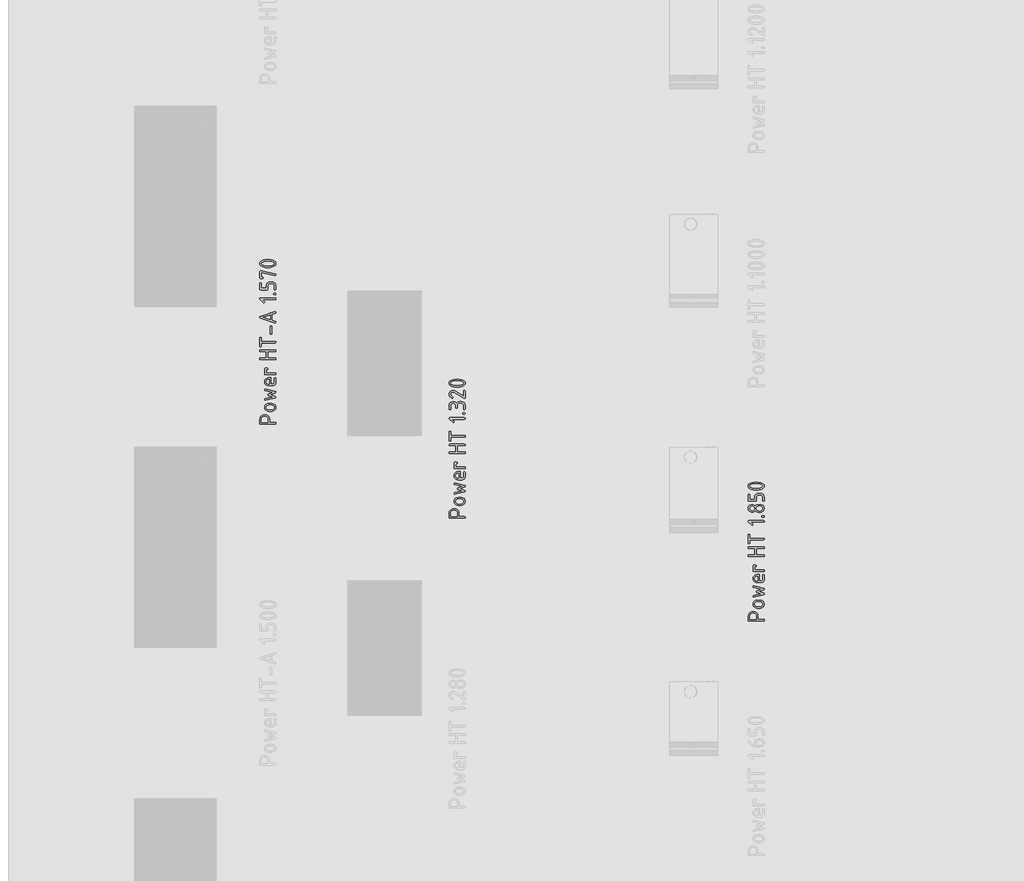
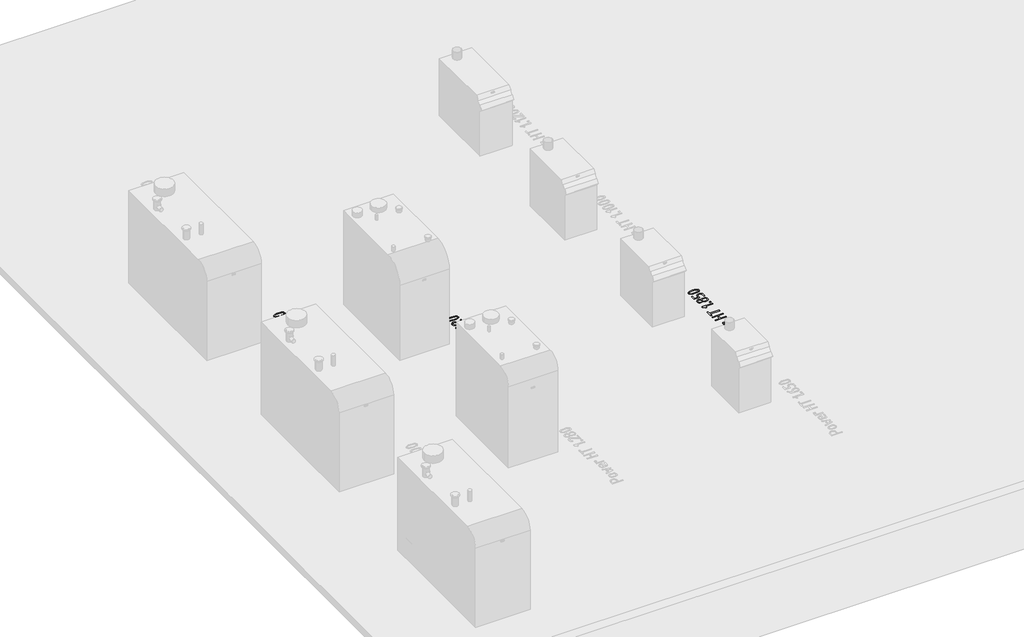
# One storey, part 32 of 37: 3 proxies.
"""IFC4 building model written with IfcOpenShell, lengths in millimetres."""

import ifcopenshell
import ifcopenshell.guid

model = None  # the IFC model being written
_history = None  # IfcOwnerHistory: only IFC2X3 demands one
_inside = {}  # id of a spatial element -> (the spatial element, [elements in it])
_under = {}  # id of a project, library or spatial element -> (it, [spatial elements below it])
_declared = {}  # id of a project -> (the project, [libraries it declares])
_typed = {}  # id of a type object -> (the type object, [elements of that type])
_made_of = {}  # id of a material, layer set ... -> (it, [elements and type objects made of it])


def new_model(schema):
    """Start an empty IFC model of exactly this schema.

    Asked for "IFC4X3", IfcOpenShell would pick the latest addendum, in which some entities
    have other attributes; the version numbers below select the first issue.
    IFC2X3 requires an IfcOwnerHistory on every rooted entity: one is made here for all.
    """
    global model, _history
    if schema == "IFC4X3":
        model = ifcopenshell.file(schema_version=(4, 3, 0, 0))
    else:
        model = ifcopenshell.file(schema=schema)
    _inside.clear()
    _under.clear()
    _declared.clear()
    _typed.clear()
    _made_of.clear()
    _history = None
    if model.schema == "IFC2X3":
        org = make("IfcOrganization", Name="unknown")
        user = make(
            "IfcPersonAndOrganization",
            ThePerson=make("IfcPerson", FamilyName="unknown"),
            TheOrganization=org,
        )
        app = make(
            "IfcApplication",
            ApplicationDeveloper=org,
            Version="unknown",
            ApplicationFullName="unknown",
            ApplicationIdentifier="unknown",
        )
        _history = make(
            "IfcOwnerHistory",
            OwningUser=user,
            OwningApplication=app,
            ChangeAction="ADDED",
            CreationDate=0,
        )
    return model


def make(cls, **values):
    """One entity of the class cls with the attributes given. An attribute that is None is left unset."""
    return model.create_entity(
        cls, **{name: value for name, value in values.items() if value is not None}
    )


def rooted(cls, **values):
    """An entity with a GlobalId (a new one), such as an element, a storey or a relation."""
    return make(cls, GlobalId=ifcopenshell.guid.new(), OwnerHistory=_history, **values)


def si_unit(unit_type, name, prefix=None):
    """IfcSIUnit, for example si_unit("LENGTHUNIT", "METRE", prefix="MILLI")."""
    return make("IfcSIUnit", UnitType=unit_type, Prefix=prefix, Name=name)


def assignment(units):
    """IfcUnitAssignment: the units of a project."""
    return None if units is None else make("IfcUnitAssignment", Units=units)


def point(xyz):
    """IfcCartesianPoint."""
    return None if xyz is None else make("IfcCartesianPoint", Coordinates=xyz)


def direction(xyz):
    """IfcDirection."""
    return None if xyz is None else make("IfcDirection", DirectionRatios=xyz)


def frame(location, z_axis=None, x_axis=None):
    """IfcAxis2Placement3D, a coordinate frame: its origin and axes. An axis left out is left unset."""
    return make(
        "IfcAxis2Placement3D",
        Location=point(location),
        Axis=direction(z_axis),
        RefDirection=direction(x_axis),
    )


def origin():
    """The frame at (0, 0, 0) with its axes left unset."""
    return frame((0.0, 0.0, 0.0))


def place(relative_to, where):
    """IfcLocalPlacement: puts the frame where relative to a parent placement (None: the world)."""
    return make(
        "IfcLocalPlacement", PlacementRelTo=relative_to, RelativePlacement=where
    )


def context(
    kind, dimensions, precision=None, world=None, true_north=None, identifier=None
):
    """IfcGeometricRepresentationContext, for example the 3D "Model" context."""
    return make(
        "IfcGeometricRepresentationContext",
        ContextIdentifier=identifier,
        ContextType=kind,
        CoordinateSpaceDimension=dimensions,
        Precision=precision,
        WorldCoordinateSystem=world,
        TrueNorth=true_north,
    )


def project(units=None, contexts=None):
    """IfcProject with its units and contexts."""
    return rooted(
        "IfcProject",
        Name="project",
        RepresentationContexts=contexts,
        UnitsInContext=assignment(units),
    )


def spatial(cls, under=None, at=None, **own):
    """A site, building, storey or space (cls), placed at a placement, below another one or the project."""
    s = rooted(cls, ObjectPlacement=at, **own)
    if under is not None:
        _under.setdefault(under.id(), (under, []))[1].append(s)
    return s


def polyline(points):
    """IfcPolyline through the points."""
    return make("IfcPolyline", Points=[point(p) for p in points])


def outline(outer, holes=None, kind="AREA"):
    """IfcArbitraryClosedProfileDef: a profile drawn as a closed curve; with holes, ...WithVoids."""
    if holes is None:
        return make("IfcArbitraryClosedProfileDef", ProfileType=kind, OuterCurve=outer)
    return make(
        "IfcArbitraryProfileDefWithVoids",
        ProfileType=kind,
        OuterCurve=outer,
        InnerCurves=holes,
    )


def extrude(swept, where, along, depth):
    """IfcExtrudedAreaSolid: the profile swept, set in the frame where, extruded along a direction by depth."""
    return make(
        "IfcExtrudedAreaSolid",
        SweptArea=swept,
        Position=where,
        ExtrudedDirection=direction(along),
        Depth=depth,
    )


def shape(context_of_items, identifier, shape_type, items):
    """IfcShapeRepresentation: the items that make up one representation, for example the "Body"."""
    return make(
        "IfcShapeRepresentation",
        ContextOfItems=context_of_items,
        RepresentationIdentifier=identifier,
        RepresentationType=shape_type,
        Items=items,
    )


def made_of(thing, what):
    """Note that an element or type object is made of a material, layer set ...; save() writes the relation."""
    if what is not None:
        _made_of.setdefault(what.id(), (what, []))[1].append(thing)
    return thing


def element(
    cls,
    number,
    at=None,
    inside=None,
    cuts=None,
    type_object=None,
    material=None,
    context=None,
    identifier="Body",
    shape_type=None,
    held_by="IfcProductDefinitionShape",
    body=None,
    shapes=None,
    **own,
):
    """One element of the class cls, such as IfcWall. Its Tag is "e" and its number.

    at: its placement. inside: the storey or other place that contains it. cuts: it is an
    opening in that element (IfcRelVoidsElement). A single representation is given by context,
    identifier, shape_type and body (its items); several are given by shapes. held_by: the class
    of the entity that holds the representations. save() writes the other relations.
    """
    e = rooted(cls, Tag="e%d" % number, ObjectPlacement=at, **own)
    if body is not None:
        shapes = [shape(context, identifier, shape_type, body)]
    if shapes is not None:
        e.Representation = make(held_by, Representations=shapes)
    if inside is not None:
        _inside.setdefault(inside.id(), (inside, []))[1].append(e)
    if cuts is not None:
        rooted(
            "IfcRelVoidsElement", RelatingBuildingElement=cuts, RelatedOpeningElement=e
        )
    if type_object is not None:
        _typed.setdefault(type_object.id(), (type_object, []))[1].append(e)
    return made_of(e, material)


def aggregate(whole, parts):
    """IfcRelAggregates: a whole, such as a stair, and the parts it consists of."""
    return rooted("IfcRelAggregates", RelatingObject=whole, RelatedObjects=parts)


def save(model, path):
    """Write the relations noted so far, then the file.

    IfcRelAggregates (storeys below a building ...), IfcRelContainedInSpatialStructure (elements
    in a storey), IfcRelDefinesByType, IfcRelAssociatesMaterial and IfcRelDeclares: one each for
    every whole, place, type object, material and project.
    """
    for whole, parts in _under.values():
        aggregate(whole, parts)
    for where, things in _inside.values():
        rooted(
            "IfcRelContainedInSpatialStructure",
            RelatedElements=things,
            RelatingStructure=where,
        )
    for kind, things in _typed.values():
        rooted("IfcRelDefinesByType", RelatedObjects=things, RelatingType=kind)
    for what, things in _made_of.values():
        rooted("IfcRelAssociatesMaterial", RelatedObjects=things, RelatingMaterial=what)
    for by, libraries in _declared.values():
        rooted("IfcRelDeclares", RelatingContext=by, RelatedDefinitions=libraries)
    model.write(path)


model = new_model("IFC4")

# Units and contexts
model_context = context("Model", 3, world=origin())
ifc_project = project(units=[si_unit("LENGTHUNIT", "METRE", prefix="MILLI")], contexts=[model_context])

# Site, building, storey
site = spatial("IfcSite", under=ifc_project)
building = spatial("IfcBuilding", under=site)
storey = spatial("IfcBuildingStorey", under=building, Name="01_Стартовый вид_Площадка", Elevation=0.0)

# Proxies
placement = place(None, origin())
element("IfcBuildingElementProxy", 1, Name="150 мм", ObjectType="150 мм", at=placement, inside=storey, context=model_context, shape_type="SweptSolid", body=[
    extrude(outline(polyline([(4705.0274469, 32.9020615), (4705.0274469, 70.1769062), (4708.3833815, 87.4310044), (4718.4511852, 101.8785025), (4733.3131812, 111.661651), (4751.0516925, 114.9227005), (4769.5892359, 111.8314453), (4784.2914255, 102.5576797), (4793.87981, 88.3399033), (4797.0759381, 70.4166158), (4797.0759381, 40.7725271), (4848.5336016, 40.7725271), (4854.0469227, 38.8548502), (4855.8846964, 33.1018195), (4853.9969832, 27.3487888), (4848.3338436, 25.4311119), (4712.5782997, 25.4311119), (4706.9151601, 27.2988493), (4705.0274469, 32.9020615)]), holes=[polyline([(4720.3688621, 40.7725271), (4781.7345229, 40.7725271), (4781.7345229, 70.1769062), (4779.5122151, 81.5681068), (4772.8452915, 91.0516183), (4762.952276, 97.4488686), (4751.0516925, 99.5812853), (4739.1511091, 97.4488686), (4729.2580936, 91.0516183), (4722.59117, 81.5681068), (4720.3688621, 70.1769062), (4720.3688621, 40.7725271)])]), frame((0.0, 0.0, -10.0), z_axis=(0.0, 0.0, 1.0), x_axis=(1.0, 0.0, 0.0)), (0.0, 0.0, 1.0), 10.0),
    extrude(outline(polyline([(4818.4500452, 145.6055309), (4788.4863437, 145.6055309), (4774.093779, 148.3172459), (4761.9984315, 156.4523909), (4753.7883773, 168.4328776), (4751.0516925, 182.6806177), (4753.7584136, 197.0781763), (4761.8785767, 209.0286992), (4773.9439605, 217.0739531), (4788.4863437, 219.7557044), (4818.4500452, 219.7557044), (4832.8426099, 217.0439894), (4844.9379574, 208.9088444), (4853.1480116, 196.9283577), (4855.8846964, 182.6806177), (4853.1480116, 168.4328776), (4844.9379574, 156.4523909), (4832.8426099, 148.3172459), (4818.4500452, 145.6055309)]), holes=[polyline([(4818.0105776, 204.4142892), (4788.0069245, 204.4142892), (4779.3773784, 202.8212191), (4772.1061868, 198.0420087), (4767.1621761, 191.0155206), (4765.5141725, 182.6806177), (4767.1621761, 174.3457147), (4772.1061868, 167.3192267), (4779.3773784, 162.5400163), (4788.0069245, 160.9469461), (4818.0105776, 160.9469461), (4826.7200269, 162.5250344), (4833.9912184, 167.2592993), (4838.9052655, 174.2708054), (4840.5432812, 182.6806177), (4838.8952776, 191.0155206), (4833.9512668, 198.0420087), (4826.6700874, 202.8212191), (4818.0105776, 204.4142892)])]), frame((0.0, 0.0, -10.0), z_axis=(0.0, 0.0, 1.0), x_axis=(1.0, 0.0, 0.0)), (0.0, 0.0, 1.0), 10.0),
    extrude(outline(polyline([(4855.8846964, 325.1080791), (4850.4512785, 317.8368875), (4809.7006444, 302.6153271), (4850.2115689, 287.3538151), (4855.8846964, 280.0826235), (4854.1268259, 275.2285039), (4848.8532144, 272.4918191), (4760.3604158, 250.31868), (4758.2030293, 250.0789704), (4752.8395267, 251.9566957), (4751.0516925, 257.5898716), (4752.4699744, 262.364088), (4756.72482, 264.8610631), (4823.0844311, 281.4809296), (4785.8095863, 295.4240387), (4780.9354909, 302.6153271), (4785.8095863, 309.6468091), (4823.2042859, 323.6298698), (4756.72482, 340.3296395), (4752.4699744, 342.886542), (4751.0516925, 347.600831), (4753.1491516, 352.8344909), (4758.2030293, 355.1117322), (4760.3604158, 354.8720226), (4849.292682, 332.6189803), (4854.2366928, 329.9422229), (4855.8846964, 325.1080791)])), frame((0.0, 0.0, -10.0), z_axis=(0.0, 0.0, 1.0), x_axis=(1.0, 0.0, 0.0)), (0.0, 0.0, 1.0), 10.0),
    extrude(outline(polyline([(4809.8604508, 401.2957842), (4825.201866, 401.2957842), (4836.0087744, 405.7304121), (4840.5432812, 416.277635), (4840.5432812, 453.7921894), (4842.4609581, 459.4253652), (4848.2139888, 461.3030905), (4853.9670195, 459.4253652), (4855.8846964, 453.7921894), (4855.8846964, 416.277635), (4853.717322, 404.6217551), (4847.2151987, 394.8236247), (4837.5568989, 388.1716829), (4825.9209948, 385.954369), (4788.4863437, 385.954369), (4774.093779, 388.7359993), (4761.9984315, 397.0808902), (4753.7883773, 409.3210623), (4751.0516925, 423.7885362), (4753.7084741, 438.365877), (4761.6788187, 450.4562306), (4773.5244687, 458.5913756), (4787.8071664, 461.3030905), (4809.8604508, 461.3030905), (4809.8604508, 401.2957842)]), holes=[polyline([(4764.5153824, 423.7885362), (4766.163386, 415.1589901), (4771.1073968, 407.8877986), (4778.3785884, 402.9437878), (4787.0081344, 401.2957842), (4794.5190356, 401.2957842), (4794.5190356, 446.2812882), (4787.0081344, 446.2812882), (4778.3785884, 444.6332846), (4771.1073968, 439.6892738), (4766.163386, 432.4180822), (4764.5153824, 423.7885362)])]), frame((0.0, 0.0, -10.0), z_axis=(0.0, 0.0, 1.0), x_axis=(1.0, 0.0, 0.0)), (0.0, 0.0, 1.0), 10.0),
    extrude(outline(polyline([(4758.5226421, 490.7873729), (4752.9194299, 492.7050498), (4751.0516925, 498.4580805), (4751.0516925, 543.6433424), (4752.9693694, 549.2465546), (4758.7224001, 551.114292), (4773.9040089, 551.114292), (4779.5371848, 549.2465546), (4781.4149101, 543.6433424), (4779.5371848, 538.0101665), (4773.9040089, 536.1324412), (4766.3931077, 536.1324412), (4766.3931077, 506.1287881), (4848.4137468, 506.1287881), (4854.016959, 504.2111112), (4855.8846964, 498.4580805), (4854.016959, 492.7050498), (4848.4137468, 490.7873729), (4758.5226421, 490.7873729)])), frame((0.0, 0.0, -10.0), z_axis=(0.0, 0.0, 1.0), x_axis=(1.0, 0.0, 0.0)), (0.0, 0.0, 1.0), 10.0),
    extrude(outline(polyline([(4848.3338436, 631.4170122), (4712.5782997, 631.4170122), (4706.9151601, 633.3346891), (4705.0274469, 639.0877198), (4706.9451238, 644.8407505), (4712.6981545, 646.7584274), (4766.3931077, 646.7584274), (4766.3931077, 705.5671856), (4712.6981545, 705.5671856), (4706.9451238, 707.4848625), (4705.0274469, 713.2378932), (4706.9151601, 718.9909239), (4712.5782997, 720.9086008), (4848.3338436, 720.9086008), (4853.9969832, 718.9909239), (4855.8846964, 713.2378932), (4854.0269469, 707.4848625), (4848.4536984, 705.5671856), (4781.7345229, 705.5671856), (4781.7345229, 646.7584274), (4848.4536984, 646.7584274), (4854.0269469, 644.8407505), (4855.8846964, 639.0877198), (4853.9969832, 633.3346891), (4848.3338436, 631.4170122)])), frame((0.0, 0.0, -10.0), z_axis=(0.0, 0.0, 1.0), x_axis=(1.0, 0.0, 0.0)), (0.0, 0.0, 1.0), 10.0),
    extrude(outline(polyline([(4712.6981545, 749.8735123), (4706.9451238, 751.7512376), (4705.0274469, 757.3844135), (4705.0274469, 832.7331351), (4706.9451238, 838.3363472), (4712.6981545, 840.2040846), (4718.4511852, 838.3363472), (4720.3688621, 832.7331351), (4720.3688621, 802.7294819), (4848.3737952, 802.7294819), (4854.0069711, 800.811805), (4855.8846964, 795.0587743), (4854.0069711, 789.3057436), (4848.3737952, 787.3880667), (4720.3688621, 787.3880667), (4720.3688621, 757.3844135), (4718.4511852, 751.7512376), (4712.6981545, 749.8735123)])), frame((0.0, 0.0, -10.0), z_axis=(0.0, 0.0, 1.0), x_axis=(1.0, 0.0, 0.0)), (0.0, 0.0, 1.0), 10.0),
    extrude(outline(polyline([(4730.7562787, 953.5867313), (4748.0553224, 936.3276392), (4750.2127089, 931.0939794), (4748.3349836, 925.4608035), (4742.7018077, 923.5830782), (4737.4681478, 925.7804163), (4707.9838655, 955.1048922), (4705.0274469, 961.2574389), (4706.9151601, 967.0104696), (4712.5782997, 968.9281465), (4848.3338436, 968.9281465), (4853.9969832, 967.0104696), (4855.8846964, 961.2574389), (4853.9969832, 955.5044082), (4848.3338436, 953.5867313), (4730.7562787, 953.5867313)])), frame((0.0, 0.0, -10.0), z_axis=(0.0, 0.0, 1.0), x_axis=(1.0, 0.0, 0.0)), (0.0, 0.0, 1.0), 10.0),
    extrude(outline(polyline([(4840.5432812, 999.6109769), (4834.7902505, 1001.5286538), (4832.8725736, 1007.2816845), (4834.7902505, 1013.0347152), (4840.5432812, 1014.9523921), (4848.2139888, 1014.9523921), (4853.9670195, 1013.0347152), (4855.8846964, 1007.2816845), (4853.9670195, 1001.5286538), (4848.2139888, 999.6109769), (4840.5432812, 999.6109769)])), frame((0.0, 0.0, -10.0), z_axis=(0.0, 0.0, 1.0), x_axis=(1.0, 0.0, 0.0)), (0.0, 0.0, 1.0), 10.0),
    extrude(outline(polyline([(4855.8846964, 1082.7103092), (4853.1280358, 1068.4625692), (4844.8580542, 1056.4820825), (4832.6728156, 1048.3469375), (4818.170384, 1045.6352225), (4803.0686784, 1045.6352225), (4786.1591629, 1049.4705763), (4772.9052189, 1060.9766377), (4759.6512749, 1049.4705763), (4742.7417593, 1045.6352225), (4728.2393278, 1048.3469375), (4716.0540891, 1056.4820825), (4707.7841075, 1068.4625692), (4705.0274469, 1082.7103092), (4707.7841075, 1096.9580493), (4716.0540891, 1108.938536), (4728.2393278, 1117.073681), (4742.7417593, 1119.785396), (4759.6512749, 1115.9500422), (4772.9052189, 1104.4439808), (4782.0840995, 1112.6939866), (4793.1606811, 1117.2284934), (4818.170384, 1119.785396), (4832.6728156, 1117.073681), (4844.8580542, 1108.938536), (4853.1280358, 1096.9580493), (4855.8846964, 1082.7103092)]), holes=[polyline([(4840.5432812, 1082.7103092), (4838.9052655, 1091.1201215), (4833.9912184, 1098.1316276), (4826.7200269, 1102.8658925), (4818.0105776, 1104.4439808), (4803.0287268, 1104.4439808), (4794.3991808, 1102.8509106), (4787.1279892, 1098.0717002), (4782.1839785, 1091.0452122), (4780.5359749, 1082.7103092), (4782.1689966, 1074.300497), (4787.0680618, 1067.2889908), (4794.3242715, 1062.554726), (4803.0287268, 1060.9766377), (4818.0105776, 1060.9766377), (4826.7200269, 1062.554726), (4833.9912184, 1067.2889908), (4838.9052655, 1074.300497), (4840.5432812, 1082.7103092)]), polyline([(4765.8737369, 1082.7103092), (4764.2407152, 1091.1201215), (4759.34165, 1098.1316276), (4752.0854402, 1102.8658925), (4743.3809849, 1104.4439808), (4734.7514389, 1102.8509106), (4727.4802473, 1098.0717002), (4722.5362366, 1091.0452122), (4720.888233, 1082.7103092), (4722.5212547, 1074.300497), (4727.4203199, 1067.2889908), (4734.6765296, 1062.554726), (4743.3809849, 1060.9766377), (4752.0854402, 1062.554726), (4759.34165, 1067.2889908), (4764.2407152, 1074.300497), (4765.8737369, 1082.7103092)])]), frame((0.0, 0.0, -10.0), z_axis=(0.0, 0.0, 1.0), x_axis=(1.0, 0.0, 0.0)), (0.0, 0.0, 1.0), 10.0),
    extrude(outline(polyline([(4774.0638153, 1150.4682264), (4712.6981545, 1150.4682264), (4706.9451238, 1152.3060001), (4705.0274469, 1157.8193211), (4705.0274469, 1209.2769846), (4706.9451238, 1214.9101605), (4712.6981545, 1216.7878858), (4718.4511852, 1214.9101605), (4720.3688621, 1209.2769846), (4720.3688621, 1165.8096416), (4766.3931077, 1165.8096416), (4766.3931077, 1187.8629259), (4769.1347864, 1201.9958051), (4777.3598225, 1213.8714189), (4789.4202124, 1221.9316546), (4803.6679525, 1224.6183998), (4818.6098516, 1224.6183998), (4832.932501, 1221.891703), (4844.977909, 1213.7116125), (4853.1579995, 1201.7161439), (4855.8846964, 1187.5433131), (4855.8846964, 1157.8992244), (4853.9670195, 1152.3259759), (4848.2139888, 1150.4682264), (4842.4609581, 1152.3060001), (4840.5432812, 1157.8193211), (4840.5432812, 1187.2237003), (4838.9402232, 1195.7483734), (4834.1310491, 1202.8647525), (4827.0146699, 1207.6739266), (4818.4899968, 1209.2769846), (4803.7878073, 1209.2769846), (4795.3130737, 1207.6639387), (4788.1867067, 1202.8248009), (4783.3475689, 1195.6984339), (4781.7345229, 1187.2237003), (4781.7345229, 1157.8193211), (4779.816846, 1152.3060001), (4774.0638153, 1150.4682264)])), frame((0.0, 0.0, -10.0), z_axis=(0.0, 0.0, 1.0), x_axis=(1.0, 0.0, 0.0)), (0.0, 0.0, 1.0), 10.0),
    extrude(outline(polyline([(4780.4560717, 1329.4514037), (4805.5956173, 1327.8233759), (4827.0795913, 1322.9392925), (4848.6834201, 1310.5243322), (4854.0843773, 1302.1669564), (4855.8846964, 1292.3763169), (4854.0918682, 1282.5856775), (4848.7133838, 1274.2283017), (4827.1994461, 1261.8133414), (4805.6855084, 1256.929258), (4780.4560717, 1255.3012302), (4755.226635, 1256.929258), (4733.7126972, 1261.8133414), (4712.1987595, 1274.2283017), (4706.8202751, 1282.5856775), (4705.0274469, 1292.3763169), (4706.827766, 1302.1669564), (4712.2287232, 1310.5243322), (4733.832552, 1322.9392925), (4755.3165261, 1327.8233759), (4780.4560717, 1329.4514037)]), holes=[polyline([(4780.4560717, 1314.1099885), (4745.2986618, 1310.2746347), (4726.6013121, 1302.8835883), (4720.3688621, 1292.3763169), (4726.6312758, 1281.9589367), (4745.4185166, 1274.597854), (4780.4560717, 1270.6426454), (4815.6134815, 1274.4779992), (4834.3108313, 1281.8690456), (4840.5432812, 1292.3763169), (4834.3108313, 1302.8835883), (4815.6134815, 1310.2746347), (4780.4560717, 1314.1099885)])]), frame((0.0, 0.0, -10.0), z_axis=(0.0, 0.0, 1.0), x_axis=(1.0, 0.0, 0.0)), (0.0, 0.0, 1.0), 10.0),
])
element("IfcBuildingElementProxy", 2, Name="150 мм", ObjectType="150 мм", at=placement, inside=storey, context=model_context, shape_type="SweptSolid", body=[
    extrude(outline(polyline([(1900.1180392, 998.5120944), (1900.1180392, 1035.7869392), (1903.4739738, 1053.0410373), (1913.5417775, 1067.4885354), (1928.4037735, 1077.271684), (1946.1422848, 1080.5327335), (1964.6798282, 1077.4414783), (1979.3820177, 1068.1677126), (1988.9704022, 1053.9499363), (1992.1665304, 1036.0266488), (1992.1665304, 1006.38256), (2043.6241939, 1006.38256), (2049.137515, 1004.4648831), (2050.9752887, 998.7118524), (2049.0875755, 992.9588217), (2043.4244359, 991.0411448), (1907.668892, 991.0411448), (1902.0057524, 992.9088822), (1900.1180392, 998.5120944)]), holes=[polyline([(1915.4594544, 1006.38256), (1976.8251152, 1006.38256), (1976.8251152, 1035.7869392), (1974.6028073, 1047.1781397), (1967.9358837, 1056.6616513), (1958.0428683, 1063.0589015), (1946.1422848, 1065.1913183), (1934.2417013, 1063.0589015), (1924.3486859, 1056.6616513), (1917.6817623, 1047.1781397), (1915.4594544, 1035.7869392), (1915.4594544, 1006.38256)])]), frame((0.0, 0.0, -10.0), z_axis=(0.0, 0.0, 1.0), x_axis=(1.0, 0.0, 0.0)), (0.0, 0.0, 1.0), 10.0),
    extrude(outline(polyline([(2013.5406375, 1111.2155639), (1983.5769359, 1111.2155639), (1969.1843713, 1113.9272789), (1957.0890238, 1122.0624239), (1948.8789695, 1134.0429105), (1946.1422848, 1148.2906506), (1948.8490058, 1162.6882092), (1956.969169, 1174.6387322), (1969.0345528, 1182.6839861), (1983.5769359, 1185.3657373), (2013.5406375, 1185.3657373), (2027.9332022, 1182.6540223), (2040.0285497, 1174.5188774), (2048.2386039, 1162.5383907), (2050.9752887, 1148.2906506), (2048.2386039, 1134.0429105), (2040.0285497, 1122.0624239), (2027.9332022, 1113.9272789), (2013.5406375, 1111.2155639)]), holes=[polyline([(2013.1011699, 1170.0243221), (1983.0975167, 1170.0243221), (1974.4679707, 1168.431252), (1967.1967791, 1163.6520416), (1962.2527683, 1156.6255536), (1960.6047648, 1148.2906506), (1962.2527683, 1139.9557476), (1967.1967791, 1132.9292596), (1974.4679707, 1128.1500492), (1983.0975167, 1126.5569791), (2013.1011699, 1126.5569791), (2021.8106191, 1128.1350674), (2029.0818107, 1132.8693322), (2033.9958578, 1139.8808384), (2035.6338735, 1148.2906506), (2033.9858699, 1156.6255536), (2029.0418591, 1163.6520416), (2021.7606796, 1168.431252), (2013.1011699, 1170.0243221)])]), frame((0.0, 0.0, -10.0), z_axis=(0.0, 0.0, 1.0), x_axis=(1.0, 0.0, 0.0)), (0.0, 0.0, 1.0), 10.0),
    extrude(outline(polyline([(2050.9752887, 1290.718112), (2045.5418708, 1283.4469204), (2004.7912367, 1268.22536), (2045.3021612, 1252.9638481), (2050.9752887, 1245.6926565), (2049.2174182, 1240.8385368), (2043.9438067, 1238.1018521), (1955.4510081, 1215.9287129), (1953.2936216, 1215.6890033), (1947.930119, 1217.5667286), (1946.1422848, 1223.1999045), (1947.5605667, 1227.974121), (1951.8154123, 1230.4710961), (2018.1750233, 1247.0909625), (1980.9001786, 1261.0340717), (1976.0260832, 1268.22536), (1980.9001786, 1275.256842), (2018.2948782, 1289.2399027), (1951.8154123, 1305.9396724), (1947.5605667, 1308.4965749), (1946.1422848, 1313.210864), (1948.2397439, 1318.4445239), (1953.2936216, 1320.7217652), (1955.4510081, 1320.4820556), (2044.3832743, 1298.2290132), (2049.3272851, 1295.5522559), (2050.9752887, 1290.718112)])), frame((0.0, 0.0, -10.0), z_axis=(0.0, 0.0, 1.0), x_axis=(1.0, 0.0, 0.0)), (0.0, 0.0, 1.0), 10.0),
    extrude(outline(polyline([(2004.9510431, 1366.9058172), (2020.2924583, 1366.9058172), (2031.0993666, 1371.340445), (2035.6338735, 1381.887668), (2035.6338735, 1419.4022223), (2037.5515504, 1425.0353982), (2043.3045811, 1426.9131235), (2049.0576118, 1425.0353982), (2050.9752887, 1419.4022223), (2050.9752887, 1381.887668), (2048.8079142, 1370.2317881), (2042.305791, 1360.4336576), (2032.6474912, 1353.7817159), (2021.0115871, 1351.564402), (1983.5769359, 1351.564402), (1969.1843713, 1354.3460323), (1957.0890238, 1362.6909232), (1948.8789695, 1374.9310952), (1946.1422848, 1389.3985691), (1948.7990663, 1403.97591), (1956.769411, 1416.0662635), (1968.615061, 1424.2014085), (1982.8977587, 1426.9131235), (2004.9510431, 1426.9131235), (2004.9510431, 1366.9058172)]), holes=[polyline([(1959.6059747, 1389.3985691), (1961.2539783, 1380.7690231), (1966.197989, 1373.4978315), (1973.4691806, 1368.5538208), (1982.0987267, 1366.9058172), (1989.6096279, 1366.9058172), (1989.6096279, 1411.8913211), (1982.0987267, 1411.8913211), (1973.4691806, 1410.2433175), (1966.197989, 1405.2993068), (1961.2539783, 1398.0281152), (1959.6059747, 1389.3985691)])]), frame((0.0, 0.0, -10.0), z_axis=(0.0, 0.0, 1.0), x_axis=(1.0, 0.0, 0.0)), (0.0, 0.0, 1.0), 10.0),
    extrude(outline(polyline([(1953.6132344, 1456.3974058), (1948.0100222, 1458.3150827), (1946.1422848, 1464.0681134), (1946.1422848, 1509.2533754), (1948.0599617, 1514.8565876), (1953.8129924, 1516.724325), (1968.9946012, 1516.724325), (1974.6277771, 1514.8565876), (1976.5055024, 1509.2533754), (1974.6277771, 1503.6201995), (1968.9946012, 1501.7424742), (1961.4837, 1501.7424742), (1961.4837, 1471.738821), (2043.5043391, 1471.738821), (2049.1075513, 1469.8211441), (2050.9752887, 1464.0681134), (2049.1075513, 1458.3150827), (2043.5043391, 1456.3974058), (1953.6132344, 1456.3974058)])), frame((0.0, 0.0, -10.0), z_axis=(0.0, 0.0, 1.0), x_axis=(1.0, 0.0, 0.0)), (0.0, 0.0, 1.0), 10.0),
    extrude(outline(polyline([(2043.4244359, 1597.0270451), (1907.668892, 1597.0270451), (1902.0057524, 1598.944722), (1900.1180392, 1604.6977527), (1902.0357161, 1610.4507834), (1907.7887468, 1612.3684603), (1961.4837, 1612.3684603), (1961.4837, 1671.1772186), (1907.7887468, 1671.1772186), (1902.0357161, 1673.0948955), (1900.1180392, 1678.8479262), (1902.0057524, 1684.6009569), (1907.668892, 1686.5186338), (2043.4244359, 1686.5186338), (2049.0875755, 1684.6009569), (2050.9752887, 1678.8479262), (2049.1175392, 1673.0948955), (2043.5442907, 1671.1772186), (1976.8251152, 1671.1772186), (1976.8251152, 1612.3684603), (2043.5442907, 1612.3684603), (2049.1175392, 1610.4507834), (2050.9752887, 1604.6977527), (2049.0875755, 1598.944722), (2043.4244359, 1597.0270451)])), frame((0.0, 0.0, -10.0), z_axis=(0.0, 0.0, 1.0), x_axis=(1.0, 0.0, 0.0)), (0.0, 0.0, 1.0), 10.0),
    extrude(outline(polyline([(1907.7887468, 1715.4835453), (1902.0357161, 1717.3612706), (1900.1180392, 1722.9944465), (1900.1180392, 1798.343168), (1902.0357161, 1803.9463802), (1907.7887468, 1805.8141176), (1913.5417775, 1803.9463802), (1915.4594544, 1798.343168), (1915.4594544, 1768.3395148), (2043.4643875, 1768.3395148), (2049.0975634, 1766.4218379), (2050.9752887, 1760.6688072), (2049.0975634, 1754.9157765), (2043.4643875, 1752.9980996), (1915.4594544, 1752.9980996), (1915.4594544, 1722.9944465), (1913.5417775, 1717.3612706), (1907.7887468, 1715.4835453)])), frame((0.0, 0.0, -10.0), z_axis=(0.0, 0.0, 1.0), x_axis=(1.0, 0.0, 0.0)), (0.0, 0.0, 1.0), 10.0),
    extrude(outline(polyline([(1925.8468709, 1919.1967643), (1943.1459146, 1901.9376722), (1945.3033012, 1896.7040123), (1943.4255759, 1891.0708364), (1937.7924, 1889.1931111), (1932.5587401, 1891.3904492), (1903.0744578, 1920.7149252), (1900.1180392, 1926.8674719), (1902.0057524, 1932.6205026), (1907.668892, 1934.5381795), (2043.4244359, 1934.5381795), (2049.0875755, 1932.6205026), (2050.9752887, 1926.8674719), (2049.0875755, 1921.1144412), (2043.4244359, 1919.1967643), (1925.8468709, 1919.1967643)])), frame((0.0, 0.0, -10.0), z_axis=(0.0, 0.0, 1.0), x_axis=(1.0, 0.0, 0.0)), (0.0, 0.0, 1.0), 10.0),
    extrude(outline(polyline([(2035.6338735, 1965.2210099), (2029.8808428, 1967.1386868), (2027.9631659, 1972.8917175), (2029.8808428, 1978.6447482), (2035.6338735, 1980.5624251), (2043.3045811, 1980.5624251), (2049.0576118, 1978.6447482), (2050.9752887, 1972.8917175), (2049.0576118, 1967.1386868), (2043.3045811, 1965.2210099), (2035.6338735, 1965.2210099)])), frame((0.0, 0.0, -10.0), z_axis=(0.0, 0.0, 1.0), x_axis=(1.0, 0.0, 0.0)), (0.0, 0.0, 1.0), 10.0),
    extrude(outline(polyline([(1976.8251152, 2047.5612618), (1976.8251152, 2032.579411), (1974.9074383, 2026.9462351), (1969.1544076, 2025.0685098), (1963.4013769, 2026.9462351), (1961.4837, 2032.579411), (1961.4837, 2047.5612618), (1959.8107267, 2056.2657171), (1954.7918067, 2063.5219268), (1947.3658026, 2068.420992), (1938.4715772, 2070.0540137), (1929.6272913, 2068.4060101), (1922.1912994, 2063.4619994), (1917.1424156, 2056.1908078), (1915.4594544, 2047.5612618), (1915.4594544, 2017.5576086), (1913.5417775, 2011.9244327), (1907.7887468, 2010.0467074), (1902.0357161, 2011.9244327), (1900.1180392, 2017.5576086), (1900.1180392, 2047.5612618), (1902.9346272, 2062.0287357), (1911.384391, 2074.2689078), (1923.7893634, 2082.6137986), (1938.4715772, 2085.3954289), (1955.6707419, 2081.6399783), (1969.1544076, 2070.3736265), (1982.2285694, 2081.6399783), (1998.9183511, 2085.3954289), (2013.7803471, 2085.3954289), (2028.0930086, 2082.5988168), (2040.1084529, 2074.2089803), (2048.2585797, 2061.9538264), (2050.9752887, 2047.5612618), (2050.9752887, 2017.5576086), (2049.0576118, 2011.9244327), (2043.3045811, 2010.0467074), (2037.5515504, 2011.9244327), (2035.6338735, 2017.5576086), (2035.6338735, 2047.5612618), (2034.0308154, 2056.2657171), (2029.2216413, 2063.5219268), (2022.1052622, 2068.420992), (2013.5805891, 2070.0540137), (1998.8783995, 2070.0540137), (1990.403666, 2068.4060101), (1983.2772989, 2063.4619994), (1978.4381611, 2056.1908078), (1976.8251152, 2047.5612618)])), frame((0.0, 0.0, -10.0), z_axis=(0.0, 0.0, 1.0), x_axis=(1.0, 0.0, 0.0)), (0.0, 0.0, 1.0), 10.0),
    extrude(outline(polyline([(1900.1180392, 2153.2332493), (1902.8697058, 2167.6607716), (1911.1247056, 2179.7810888), (1923.2849745, 2188.0061249), (1937.7524484, 2190.7478036), (1948.5493688, 2189.0398726), (1959.4461683, 2183.9160797), (2035.6338735, 2136.6533344), (2035.6338735, 2183.2369024), (2037.5515504, 2188.8700783), (2043.3045811, 2190.7478036), (2049.0576118, 2188.8700783), (2050.9752887, 2183.2369024), (2050.9752887, 2123.2295961), (2049.0975634, 2117.5964202), (2043.4643875, 2115.7186949), (2039.1096628, 2116.9971462), (1950.4970094, 2171.9705506), (1938.0321096, 2175.7260012), (1929.3676059, 2174.0779976), (1922.0714446, 2169.1339869), (1917.1124519, 2161.8627953), (1915.4594544, 2153.2332493), (1920.1737435, 2140.9980711), (1934.3166106, 2129.7017556), (1937.9522064, 2123.2295961), (1936.0744811, 2117.5964202), (1930.4413052, 2115.7186949), (1927.3650318, 2116.4378237), (1906.9297874, 2132.6082347), (1901.8209762, 2142.3639165), (1900.1180392, 2153.2332493)])), frame((0.0, 0.0, -10.0), z_axis=(0.0, 0.0, 1.0), x_axis=(1.0, 0.0, 0.0)), (0.0, 0.0, 1.0), 10.0),
    extrude(outline(polyline([(1975.5466639, 2295.0614366), (2000.6862095, 2293.4334088), (2022.1701836, 2288.5493255), (2043.7740124, 2276.1343651), (2049.1749696, 2267.7769894), (2050.9752887, 2257.9863499), (2049.1824605, 2248.1957104), (2043.8039761, 2239.8383347), (2022.2900384, 2227.4233743), (2000.7761006, 2222.539291), (1975.5466639, 2220.9112632), (1950.3172272, 2222.539291), (1928.8032895, 2227.4233743), (1907.2893518, 2239.8383347), (1901.9108674, 2248.1957104), (1900.1180392, 2257.9863499), (1901.9183583, 2267.7769894), (1907.3193155, 2276.1343651), (1928.9231443, 2288.5493255), (1950.4071183, 2293.4334088), (1975.5466639, 2295.0614366)]), holes=[polyline([(1975.5466639, 2279.7200214), (1940.3892541, 2275.8846676), (1921.6919043, 2268.4936212), (1915.4594544, 2257.9863499), (1921.721868, 2247.5689697), (1940.5091089, 2240.207887), (1975.5466639, 2236.2526784), (2010.7040738, 2240.0880322), (2029.4014235, 2247.4790786), (2035.6338735, 2257.9863499), (2029.4014235, 2268.4936212), (2010.7040738, 2275.8846676), (1975.5466639, 2279.7200214)])]), frame((0.0, 0.0, -10.0), z_axis=(0.0, 0.0, 1.0), x_axis=(1.0, 0.0, 0.0)), (0.0, 0.0, 1.0), 10.0),
])
element("IfcBuildingElementProxy", 3, Name="150 мм", ObjectType="150 мм", at=placement, inside=storey, context=model_context, shape_type="SweptSolid", body=[
    extrude(outline(polyline([(124.0044159, 1880.5103581), (124.0044159, 1917.7852028), (127.3603504, 1935.039301), (137.4281542, 1949.4867991), (152.2901501, 1959.2699476), (170.0286615, 1962.5309972), (188.5662048, 1959.4397419), (203.2683944, 1950.1659763), (212.8567789, 1935.9481999), (216.052907, 1918.0249124), (216.052907, 1888.3808237), (267.5105705, 1888.3808237), (273.0238916, 1886.4631468), (274.8616653, 1880.7101161), (272.9739521, 1874.9570854), (267.3108125, 1873.0394085), (131.5552687, 1873.0394085), (125.8921291, 1874.9071459), (124.0044159, 1880.5103581)]), holes=[polyline([(139.3458311, 1888.3808237), (200.7114919, 1888.3808237), (200.7114919, 1917.7852028), (198.489184, 1929.1764034), (191.8222604, 1938.6599149), (181.9292449, 1945.0571652), (170.0286615, 1947.189582), (158.128078, 1945.0571652), (148.2350625, 1938.6599149), (141.5681389, 1929.1764034), (139.3458311, 1917.7852028), (139.3458311, 1888.3808237)])]), frame((0.0, 0.0, -10.0), z_axis=(0.0, 0.0, 1.0), x_axis=(1.0, 0.0, 0.0)), (0.0, 0.0, 1.0), 10.0),
    extrude(outline(polyline([(237.4270142, 1993.2138276), (207.4633126, 1993.2138276), (193.070748, 1995.9255425), (180.9754004, 2004.0606875), (172.7653462, 2016.0411742), (170.0286615, 2030.2889143), (172.7353825, 2044.6864729), (180.8555456, 2056.6369958), (192.9209294, 2064.6822497), (207.4633126, 2067.364001), (237.4270142, 2067.364001), (251.8195788, 2064.652286), (263.9149263, 2056.517141), (272.1249806, 2044.5366544), (274.8616653, 2030.2889143), (272.1249806, 2016.0411742), (263.9149263, 2004.0606875), (251.8195788, 1995.9255425), (237.4270142, 1993.2138276)]), holes=[polyline([(236.9875465, 2052.0225858), (206.9838934, 2052.0225858), (198.3543473, 2050.4295157), (191.0831558, 2045.6503053), (186.139145, 2038.6238173), (184.4911414, 2030.2889143), (186.139145, 2021.9540113), (191.0831558, 2014.9275233), (198.3543473, 2010.1483129), (206.9838934, 2008.5552427), (236.9875465, 2008.5552427), (245.6969958, 2010.133331), (252.9681874, 2014.8675959), (257.8822344, 2021.879102), (259.5202501, 2030.2889143), (257.8722465, 2038.6238173), (252.9282358, 2045.6503053), (245.6470563, 2050.4295157), (236.9875465, 2052.0225858)])]), frame((0.0, 0.0, -10.0), z_axis=(0.0, 0.0, 1.0), x_axis=(1.0, 0.0, 0.0)), (0.0, 0.0, 1.0), 10.0),
    extrude(outline(polyline([(274.8616653, 2172.7163757), (269.4282474, 2165.4451841), (228.6776133, 2150.2236237), (269.1885378, 2134.9621117), (274.8616653, 2127.6909201), (273.1037948, 2122.8368005), (267.8301833, 2120.1001157), (179.3373847, 2097.9269766), (177.1799982, 2097.687267), (171.8164956, 2099.5649923), (170.0286615, 2105.1981682), (171.4469433, 2109.9723846), (175.701789, 2112.4693598), (242.0614, 2129.0892262), (204.7865553, 2143.0323353), (199.9124598, 2150.2236237), (204.7865553, 2157.2551057), (242.1812548, 2171.2381664), (175.701789, 2187.9379361), (171.4469433, 2190.4948386), (170.0286615, 2195.2091277), (172.1261206, 2200.4427875), (177.1799982, 2202.7200288), (179.3373847, 2202.4803192), (268.269651, 2180.2272769), (273.2136617, 2177.5505195), (274.8616653, 2172.7163757)])), frame((0.0, 0.0, -10.0), z_axis=(0.0, 0.0, 1.0), x_axis=(1.0, 0.0, 0.0)), (0.0, 0.0, 1.0), 10.0),
    extrude(outline(polyline([(228.8374197, 2248.9040808), (244.1788349, 2248.9040808), (254.9857433, 2253.3387087), (259.5202501, 2263.8859316), (259.5202501, 2301.400486), (261.437927, 2307.0336619), (267.1909577, 2308.9113872), (272.9439884, 2307.0336619), (274.8616653, 2301.400486), (274.8616653, 2263.8859316), (272.6942909, 2252.2300517), (266.1921677, 2242.4319213), (256.5338679, 2235.7799796), (244.8979637, 2233.5626656), (207.4633126, 2233.5626656), (193.070748, 2236.3442959), (180.9754004, 2244.6891868), (172.7653462, 2256.9293589), (170.0286615, 2271.3968328), (172.685443, 2285.9741736), (180.6557876, 2298.0645272), (192.5014376, 2306.1996722), (206.7841354, 2308.9113872), (228.8374197, 2308.9113872), (228.8374197, 2248.9040808)]), holes=[polyline([(183.4923514, 2271.3968328), (185.1403549, 2262.7672868), (190.0843657, 2255.4960952), (197.3555573, 2250.5520844), (205.9851033, 2248.9040808), (213.4960045, 2248.9040808), (213.4960045, 2293.8895848), (205.9851033, 2293.8895848), (197.3555573, 2292.2415812), (190.0843657, 2287.2975704), (185.1403549, 2280.0263789), (183.4923514, 2271.3968328)])]), frame((0.0, 0.0, -10.0), z_axis=(0.0, 0.0, 1.0), x_axis=(1.0, 0.0, 0.0)), (0.0, 0.0, 1.0), 10.0),
    extrude(outline(polyline([(177.499611, 2338.3956695), (171.8963989, 2340.3133464), (170.0286615, 2346.0663771), (170.0286615, 2391.251639), (171.9463384, 2396.8548512), (177.6993691, 2398.7225886), (192.8809778, 2398.7225886), (198.5141537, 2396.8548512), (200.391879, 2391.251639), (198.5141537, 2385.6184632), (192.8809778, 2383.7407379), (185.3700767, 2383.7407379), (185.3700767, 2353.7370847), (267.3907157, 2353.7370847), (272.9939279, 2351.8194078), (274.8616653, 2346.0663771), (272.9939279, 2340.3133464), (267.3907157, 2338.3956695), (177.499611, 2338.3956695)])), frame((0.0, 0.0, -10.0), z_axis=(0.0, 0.0, 1.0), x_axis=(1.0, 0.0, 0.0)), (0.0, 0.0, 1.0), 10.0),
    extrude(outline(polyline([(267.3108125, 2479.0253088), (131.5552687, 2479.0253088), (125.8921291, 2480.9429857), (124.0044159, 2486.6960164), (125.9220928, 2492.4490471), (131.6751235, 2494.366724), (185.3700767, 2494.366724), (185.3700767, 2553.1754823), (131.6751235, 2553.1754823), (125.9220928, 2555.0931592), (124.0044159, 2560.8461899), (125.8921291, 2566.5992206), (131.5552687, 2568.5168975), (267.3108125, 2568.5168975), (272.9739521, 2566.5992206), (274.8616653, 2560.8461899), (273.0039158, 2555.0931592), (267.4306673, 2553.1754823), (200.7114919, 2553.1754823), (200.7114919, 2494.366724), (267.4306673, 2494.366724), (273.0039158, 2492.4490471), (274.8616653, 2486.6960164), (272.9739521, 2480.9429857), (267.3108125, 2479.0253088)])), frame((0.0, 0.0, -10.0), z_axis=(0.0, 0.0, 1.0), x_axis=(1.0, 0.0, 0.0)), (0.0, 0.0, 1.0), 10.0),
    extrude(outline(polyline([(131.6751235, 2597.481809), (125.9220928, 2599.3595343), (124.0044159, 2604.9927102), (124.0044159, 2680.3414317), (125.9220928, 2685.9446439), (131.6751235, 2687.8123813), (137.4281542, 2685.9446439), (139.3458311, 2680.3414317), (139.3458311, 2650.3377785), (267.3507641, 2650.3377785), (272.98394, 2648.4201016), (274.8616653, 2642.6670709), (272.98394, 2636.9140402), (267.3507641, 2634.9963633), (139.3458311, 2634.9963633), (139.3458311, 2604.9927102), (137.4281542, 2599.3595343), (131.6751235, 2597.481809)])), frame((0.0, 0.0, -10.0), z_axis=(0.0, 0.0, 1.0), x_axis=(1.0, 0.0, 0.0)), (0.0, 0.0, 1.0), 10.0),
    extrude(outline(polyline([(236.5081273, 2786.53279), (236.5081273, 2726.5254837), (234.5904504, 2720.8923078), (228.8374197, 2719.0145825), (223.084389, 2720.8923078), (221.1667121, 2726.5254837), (221.1667121, 2786.53279), (223.084389, 2792.1659659), (228.8374197, 2794.0436912), (234.5904504, 2792.1659659), (236.5081273, 2786.53279)])), frame((0.0, 0.0, -10.0), z_axis=(0.0, 0.0, 1.0), x_axis=(1.0, 0.0, 0.0)), (0.0, 0.0, 1.0), 10.0),
    extrude(outline(polyline([(267.3108125, 2928.8803482), (272.9739521, 2927.0026229), (274.8616653, 2921.369447), (273.5532503, 2916.8449281), (269.6280054, 2914.2181102), (236.5081273, 2903.4311777), (236.5081273, 2849.3367085), (269.6280054, 2838.5098243), (273.5532503, 2835.8830065), (274.8616653, 2831.3584875), (272.9739521, 2825.7253116), (267.3108125, 2823.8475863), (264.9137164, 2824.2071508), (130.0770594, 2868.8730419), (125.5225767, 2871.769533), (124.0044159, 2876.3839431), (125.4626493, 2880.9384257), (129.8373498, 2883.7350378), (264.9137164, 2928.5207838), (267.3108125, 2928.8803482)]), holes=[polyline([(155.0068591, 2876.3839431), (221.1667121, 2854.3306587), (221.1667121, 2898.3972758), (155.0068591, 2876.3839431)])]), frame((0.0, 0.0, -10.0), z_axis=(0.0, 0.0, 1.0), x_axis=(1.0, 0.0, 0.0)), (0.0, 0.0, 1.0), 10.0),
    extrude(outline(polyline([(149.7332476, 3041.543866), (167.0322913, 3024.284774), (169.1896778, 3019.0511141), (167.3119525, 3013.4179382), (161.6787766, 3011.5402129), (156.4451167, 3013.737551), (126.9608344, 3043.0620269), (124.0044159, 3049.2145736), (125.8921291, 3054.9676043), (131.5552687, 3056.8852812), (267.3108125, 3056.8852812), (272.9739521, 3054.9676043), (274.8616653, 3049.2145736), (272.9739521, 3043.4615429), (267.3108125, 3041.543866), (149.7332476, 3041.543866)])), frame((0.0, 0.0, -10.0), z_axis=(0.0, 0.0, 1.0), x_axis=(1.0, 0.0, 0.0)), (0.0, 0.0, 1.0), 10.0),
    extrude(outline(polyline([(259.5202501, 3087.5681116), (253.7672194, 3089.4857885), (251.8495425, 3095.2388192), (253.7672194, 3100.9918499), (259.5202501, 3102.9095268), (267.1909577, 3102.9095268), (272.9439884, 3100.9918499), (274.8616653, 3095.2388192), (272.9439884, 3089.4857885), (267.1909577, 3087.5681116), (259.5202501, 3087.5681116)])), frame((0.0, 0.0, -10.0), z_axis=(0.0, 0.0, 1.0), x_axis=(1.0, 0.0, 0.0)), (0.0, 0.0, 1.0), 10.0),
    extrude(outline(polyline([(193.0407843, 3133.5923572), (131.6751235, 3133.5923572), (125.9220928, 3135.4301309), (124.0044159, 3140.943452), (124.0044159, 3192.4011155), (125.9220928, 3198.0342914), (131.6751235, 3199.9120167), (137.4281542, 3198.0342914), (139.3458311, 3192.4011155), (139.3458311, 3148.9337724), (185.3700767, 3148.9337724), (185.3700767, 3170.9870568), (188.1117553, 3185.119936), (196.3367914, 3196.9955497), (208.3971813, 3205.0557854), (222.6449214, 3207.7425307), (237.5868206, 3207.7425307), (251.9094699, 3205.0158338), (263.9548779, 3196.8357433), (272.1349685, 3184.8402748), (274.8616653, 3170.667444), (274.8616653, 3141.0233552), (272.9439884, 3135.4501067), (267.1909577, 3133.5923572), (261.437927, 3135.4301309), (259.5202501, 3140.943452), (259.5202501, 3170.3478311), (257.9171921, 3178.8725042), (253.108018, 3185.9888834), (245.9916389, 3190.7980575), (237.4669658, 3192.4011155), (222.7647762, 3192.4011155), (214.2900426, 3190.7880696), (207.1636756, 3185.9489318), (202.3245378, 3178.8225647), (200.7114919, 3170.3478311), (200.7114919, 3140.943452), (198.793815, 3135.4301309), (193.0407843, 3133.5923572)])), frame((0.0, 0.0, -10.0), z_axis=(0.0, 0.0, 1.0), x_axis=(1.0, 0.0, 0.0)), (0.0, 0.0, 1.0), 10.0),
    extrude(outline(polyline([(139.5056375, 3296.9544581), (139.5056375, 3253.6469215), (147.8155707, 3253.6469215), (153.4487466, 3251.7691962), (155.3264719, 3246.3757299), (153.3588555, 3240.6826266), (147.6957159, 3238.7849255), (132.0346879, 3238.8648287), (126.401512, 3240.742554), (124.5237867, 3246.3757299), (124.5237867, 3306.3830362), (126.3415846, 3311.9562847), (131.7949783, 3313.8939374), (133.5928004, 3313.6542278), (268.6292154, 3283.6505746), (273.0338795, 3281.1835632), (274.5021009, 3276.4992379), (272.6343635, 3270.7761709), (267.0311513, 3268.8684819), (265.3132324, 3268.9883367), (139.5056375, 3296.9544581)])), frame((0.0, 0.0, -10.0), z_axis=(0.0, 0.0, 1.0), x_axis=(1.0, 0.0, 0.0)), (0.0, 0.0, 1.0), 10.0),
    extrude(outline(polyline([(199.4330406, 3417.4085384), (224.5725862, 3415.7805106), (246.0565602, 3410.8964273), (267.660389, 3398.4814669), (273.0613462, 3390.1240911), (274.8616653, 3380.3334517), (273.0688372, 3370.5428122), (267.6903527, 3362.1854364), (246.176415, 3349.7704761), (224.6624773, 3344.8863927), (199.4330406, 3343.2583649), (174.2036039, 3344.8863927), (152.6896662, 3349.7704761), (131.1757284, 3362.1854364), (125.797244, 3370.5428122), (124.0044159, 3380.3334517), (125.8047349, 3390.1240911), (131.2056921, 3398.4814669), (152.809521, 3410.8964273), (174.293495, 3415.7805106), (199.4330406, 3417.4085384)]), holes=[polyline([(199.4330406, 3402.0671232), (164.2756308, 3398.2317694), (145.578281, 3390.840723), (139.3458311, 3380.3334517), (145.6082447, 3369.9160714), (164.3954856, 3362.5549887), (199.4330406, 3358.5997801), (234.5904504, 3362.4351339), (253.2878002, 3369.8261803), (259.5202501, 3380.3334517), (253.2878002, 3390.840723), (234.5904504, 3398.2317694), (199.4330406, 3402.0671232)])]), frame((0.0, 0.0, -10.0), z_axis=(0.0, 0.0, 1.0), x_axis=(1.0, 0.0, 0.0)), (0.0, 0.0, 1.0), 10.0),
])

save(model, "model.ifc")
